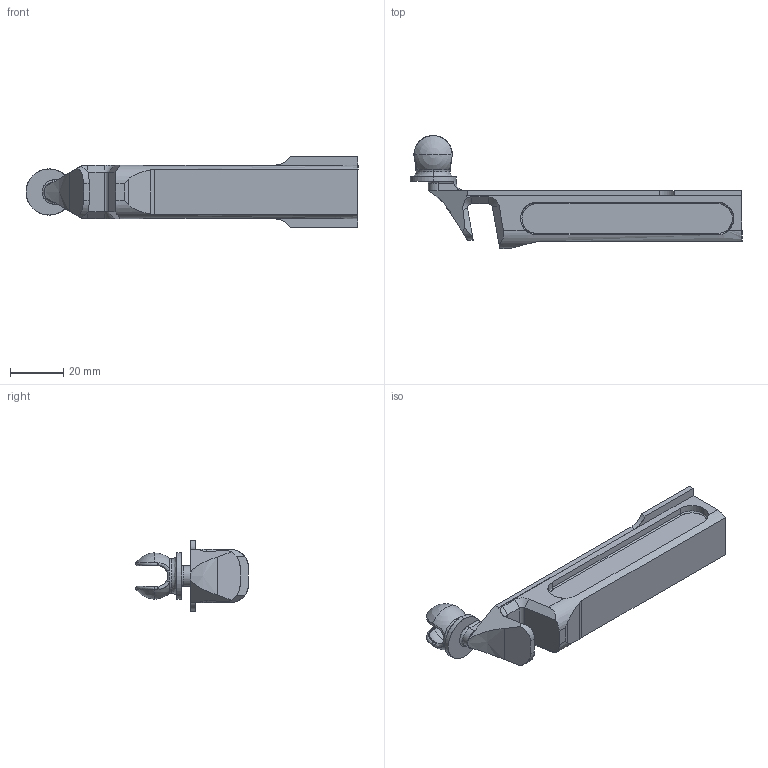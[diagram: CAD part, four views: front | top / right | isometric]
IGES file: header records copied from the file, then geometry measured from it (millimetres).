
Start section: SolidWorks IGES file using analytic representation for surfaces
Global section: file name: C:\Documents and Settings\Wisbith\My Documents\CAD\Thompson SMG\iges\1928 Actuator.IGS; native system: SolidWorks 2008; preprocessor: SolidWorks 2008; author: Wisbith; date: 100731.003300; units: inch
Bounding box: 124.21 x 42.27 x 26.67 mm (x, y, z)
Surface area: 14565.4 mm2 (no closed solid volume)
Topology: 0 solids, 0 shells, 116 faces, 1362 edges, 1360 vertices
Faces by surface type: bspline 69, revolution 47
